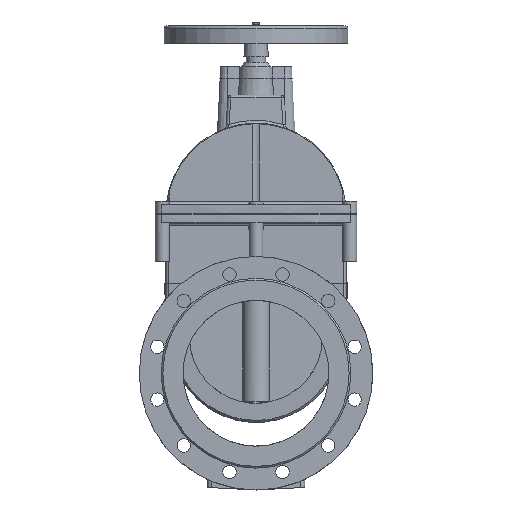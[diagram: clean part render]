
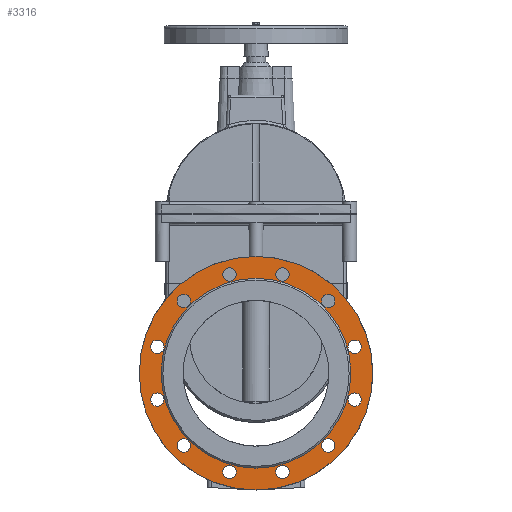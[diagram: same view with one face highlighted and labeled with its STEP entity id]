
A CAD part, left-side view. The second image highlights one B-rep face of the part: STEP entity #3316.
In plain terms, the highlighted planar face has unit normal (-1, 0, 0).
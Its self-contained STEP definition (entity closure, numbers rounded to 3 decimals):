
#3316=ADVANCED_FACE('',(#8443,#8445,#8447,#8449,#8451,#8453,#8455,#8457,#8459,#8461,
#8463,#8465,#8467,#8469),#8471,.F.);
#8443=FACE_BOUND('',#8444,.T.);
#8444=EDGE_LOOP('',(#17750));
#8445=FACE_BOUND('',#8446,.T.);
#8446=EDGE_LOOP('',(#17751));
#8447=FACE_BOUND('',#8448,.T.);
#8448=EDGE_LOOP('',(#17752));
#8449=FACE_BOUND('',#8450,.T.);
#8450=EDGE_LOOP('',(#17753));
#8451=FACE_BOUND('',#8452,.T.);
#8452=EDGE_LOOP('',(#17754));
#8453=FACE_BOUND('',#8454,.T.);
#8454=EDGE_LOOP('',(#17755));
#8455=FACE_BOUND('',#8456,.T.);
#8456=EDGE_LOOP('',(#17756));
#8457=FACE_BOUND('',#8458,.T.);
#8458=EDGE_LOOP('',(#17757));
#8459=FACE_BOUND('',#8460,.T.);
#8460=EDGE_LOOP('',(#17758));
#8461=FACE_BOUND('',#8462,.T.);
#8462=EDGE_LOOP('',(#17759));
#8463=FACE_BOUND('',#8464,.T.);
#8464=EDGE_LOOP('',(#17760));
#8465=FACE_BOUND('',#8466,.T.);
#8466=EDGE_LOOP('',(#17761));
#8467=FACE_BOUND('',#8468,.T.);
#8468=EDGE_LOOP('',(#17762));
#8469=FACE_BOUND('',#8470,.T.);
#8470=EDGE_LOOP('',(#17763));
#8471=PLANE('',#8472);
#8472=AXIS2_PLACEMENT_3D('',#8473,#8474,#8475);
#8473=CARTESIAN_POINT('',(-222.,0.,0.));
#8474=DIRECTION('',(1.,0.,0.));
#8475=DIRECTION('',(0.,1.,0.));
#17750=ORIENTED_EDGE('',*,*,#20462,.F.);
#17751=ORIENTED_EDGE('',*,*,#20482,.T.);
#17752=ORIENTED_EDGE('',*,*,#20481,.T.);
#17753=ORIENTED_EDGE('',*,*,#20480,.T.);
#17754=ORIENTED_EDGE('',*,*,#20479,.T.);
#17755=ORIENTED_EDGE('',*,*,#20478,.T.);
#17756=ORIENTED_EDGE('',*,*,#20477,.T.);
#17757=ORIENTED_EDGE('',*,*,#20476,.T.);
#17758=ORIENTED_EDGE('',*,*,#20475,.T.);
#17759=ORIENTED_EDGE('',*,*,#20474,.T.);
#17760=ORIENTED_EDGE('',*,*,#20473,.T.);
#17761=ORIENTED_EDGE('',*,*,#20472,.T.);
#17762=ORIENTED_EDGE('',*,*,#20588,.F.);
#17763=ORIENTED_EDGE('',*,*,#20471,.T.);
#20462=EDGE_CURVE('',#23139,#23139,#23140,.T.);
#20471=EDGE_CURVE('',#23151,#23151,#23152,.T.);
#20472=EDGE_CURVE('',#23153,#23153,#23154,.T.);
#20473=EDGE_CURVE('',#23155,#23155,#23156,.T.);
#20474=EDGE_CURVE('',#23157,#23157,#23158,.T.);
#20475=EDGE_CURVE('',#23159,#23159,#23160,.T.);
#20476=EDGE_CURVE('',#23161,#23161,#23162,.T.);
#20477=EDGE_CURVE('',#23163,#23163,#23164,.T.);
#20478=EDGE_CURVE('',#23165,#23165,#23166,.T.);
#20479=EDGE_CURVE('',#23167,#23167,#23168,.T.);
#20480=EDGE_CURVE('',#23169,#23169,#23170,.T.);
#20481=EDGE_CURVE('',#23171,#23171,#23172,.T.);
#20482=EDGE_CURVE('',#23173,#23173,#23174,.T.);
#20588=EDGE_CURVE('',#23339,#23339,#23340,.T.);
#23139=VERTEX_POINT('',#31899);
#23140=CIRCLE('',#31900,200.);
#23151=VERTEX_POINT('',#31934);
#23152=CIRCLE('',#31935,11.5);
#23153=VERTEX_POINT('',#31939);
#23154=CIRCLE('',#31940,11.5);
#23155=VERTEX_POINT('',#31944);
#23156=CIRCLE('',#31945,11.5);
#23157=VERTEX_POINT('',#31949);
#23158=CIRCLE('',#31950,11.5);
#23159=VERTEX_POINT('',#31954);
#23160=CIRCLE('',#31955,11.5);
#23161=VERTEX_POINT('',#31959);
#23162=CIRCLE('',#31960,11.5);
#23163=VERTEX_POINT('',#31964);
#23164=CIRCLE('',#31965,11.5);
#23165=VERTEX_POINT('',#31969);
#23166=CIRCLE('',#31970,11.5);
#23167=VERTEX_POINT('',#31974);
#23168=CIRCLE('',#31975,11.5);
#23169=VERTEX_POINT('',#31979);
#23170=CIRCLE('',#31980,11.5);
#23171=VERTEX_POINT('',#31984);
#23172=CIRCLE('',#31985,11.5);
#23173=VERTEX_POINT('',#31989);
#23174=CIRCLE('',#31990,11.5);
#23339=VERTEX_POINT('',#32536);
#23340=CIRCLE('',#32537,162.5);
#31899=CARTESIAN_POINT('',(-222.,200.,0.));
#31900=AXIS2_PLACEMENT_3D('',#31901,#31902,#31903);
#31901=CARTESIAN_POINT('',(-222.,0.,0.));
#31902=DIRECTION('',(1.,0.,0.));
#31903=DIRECTION('',(0.,1.,0.));
#31934=CARTESIAN_POINT('',(-222.,180.537,45.293));
#31935=AXIS2_PLACEMENT_3D('',#31936,#31937,#31938);
#31936=CARTESIAN_POINT('',(-222.,169.037,45.293));
#31937=DIRECTION('',(1.,0.,0.));
#31938=DIRECTION('',(0.,1.,0.));
#31939=CARTESIAN_POINT('',(-222.,178.996,-51.043));
#31940=AXIS2_PLACEMENT_3D('',#31941,#31942,#31943);
#31941=CARTESIAN_POINT('',(-222.,169.037,-45.293));
#31942=DIRECTION('',(1.,0.,0.));
#31943=DIRECTION('',(0.,0.866,-0.5));
#31944=CARTESIAN_POINT('',(-222.,129.494,-133.703));
#31945=AXIS2_PLACEMENT_3D('',#31946,#31947,#31948);
#31946=CARTESIAN_POINT('',(-222.,123.744,-123.744));
#31947=DIRECTION('',(1.,0.,0.));
#31948=DIRECTION('',(0.,0.5,-0.866));
#31949=CARTESIAN_POINT('',(-222.,45.293,-180.537));
#31950=AXIS2_PLACEMENT_3D('',#31951,#31952,#31953);
#31951=CARTESIAN_POINT('',(-222.,45.293,-169.037));
#31952=DIRECTION('',(1.,0.,0.));
#31953=DIRECTION('',(0.,0.,-1.));
#31954=CARTESIAN_POINT('',(-222.,-51.043,-178.996));
#31955=AXIS2_PLACEMENT_3D('',#31956,#31957,#31958);
#31956=CARTESIAN_POINT('',(-222.,-45.293,-169.037));
#31957=DIRECTION('',(1.,0.,0.));
#31958=DIRECTION('',(0.,-0.5,-0.866));
#31959=CARTESIAN_POINT('',(-222.,-133.703,-129.494));
#31960=AXIS2_PLACEMENT_3D('',#31961,#31962,#31963);
#31961=CARTESIAN_POINT('',(-222.,-123.744,-123.744));
#31962=DIRECTION('',(1.,0.,0.));
#31963=DIRECTION('',(0.,-0.866,-0.5));
#31964=CARTESIAN_POINT('',(-222.,-180.537,-45.293));
#31965=AXIS2_PLACEMENT_3D('',#31966,#31967,#31968);
#31966=CARTESIAN_POINT('',(-222.,-169.037,-45.293));
#31967=DIRECTION('',(1.,0.,0.));
#31968=DIRECTION('',(0.,-1.,0.));
#31969=CARTESIAN_POINT('',(-222.,-178.996,51.043));
#31970=AXIS2_PLACEMENT_3D('',#31971,#31972,#31973);
#31971=CARTESIAN_POINT('',(-222.,-169.037,45.293));
#31972=DIRECTION('',(1.,0.,0.));
#31973=DIRECTION('',(0.,-0.866,0.5));
#31974=CARTESIAN_POINT('',(-222.,-129.494,133.703));
#31975=AXIS2_PLACEMENT_3D('',#31976,#31977,#31978);
#31976=CARTESIAN_POINT('',(-222.,-123.744,123.744));
#31977=DIRECTION('',(1.,0.,0.));
#31978=DIRECTION('',(0.,-0.5,0.866));
#31979=CARTESIAN_POINT('',(-222.,-45.293,180.537));
#31980=AXIS2_PLACEMENT_3D('',#31981,#31982,#31983);
#31981=CARTESIAN_POINT('',(-222.,-45.293,169.037));
#31982=DIRECTION('',(1.,0.,0.));
#31983=DIRECTION('',(0.,0.,1.));
#31984=CARTESIAN_POINT('',(-222.,51.043,178.996));
#31985=AXIS2_PLACEMENT_3D('',#31986,#31987,#31988);
#31986=CARTESIAN_POINT('',(-222.,45.293,169.037));
#31987=DIRECTION('',(1.,0.,0.));
#31988=DIRECTION('',(0.,0.5,0.866));
#31989=CARTESIAN_POINT('',(-222.,133.703,129.494));
#31990=AXIS2_PLACEMENT_3D('',#31991,#31992,#31993);
#31991=CARTESIAN_POINT('',(-222.,123.744,123.744));
#31992=DIRECTION('',(1.,0.,0.));
#31993=DIRECTION('',(0.,0.866,0.5));
#32536=CARTESIAN_POINT('',(-222.,-162.5,0.));
#32537=AXIS2_PLACEMENT_3D('',#32538,#32539,#32540);
#32538=CARTESIAN_POINT('',(-222.,0.,0.));
#32539=DIRECTION('',(-1.,0.,0.));
#32540=DIRECTION('',(0.,-1.,0.));
